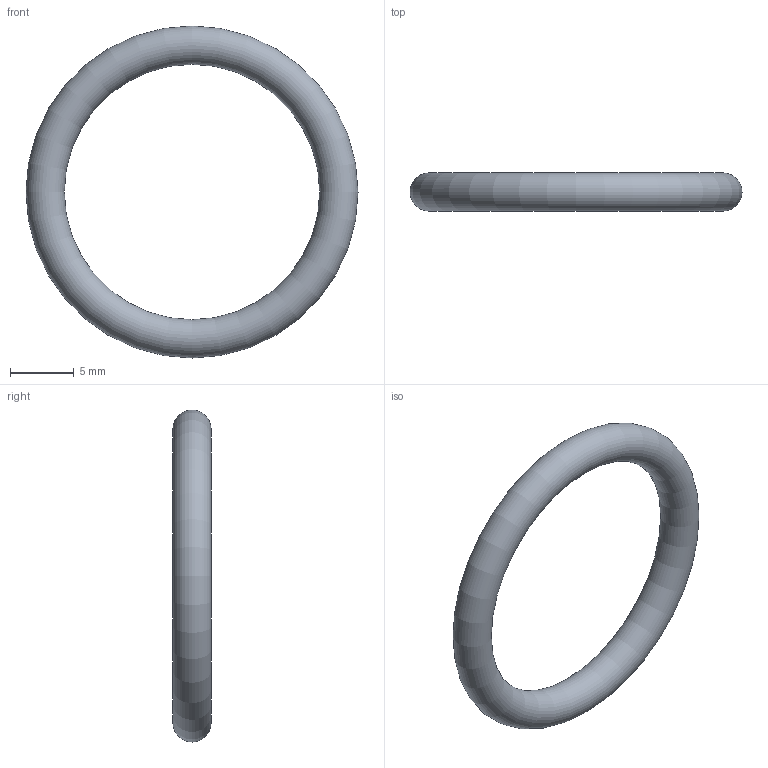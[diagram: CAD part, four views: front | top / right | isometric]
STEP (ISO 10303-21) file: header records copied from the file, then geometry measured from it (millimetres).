
FILE_DESCRIPTION( ( 'STEP AP203' ), '1' );
FILE_NAME( 'C:/Temp/Ganter_Step_05_03_2020/data/3_5/or638/O-Ring OR638-20.00-3.00-70.stp', '2020-03-12T13:44:29', ( 'License CC BY-ND 4.0' ), ( 'CADENAS' ), ' ', 'PARTsolutions', ' ' );
FILE_SCHEMA( ( 'CONFIG_CONTROL_DESIGN' ) );
Length unit declared in the file: millimetre
Products named in the file (1): _O-Ring OR638-20.00-3.00-70
Bounding box: 26 x 3 x 26 mm (x, y, z)
Volume: 510.8 mm3; surface area: 681 mm2
Topology: 1 solids, 1 shells, 1 faces, 2 edges, 1 vertices
Faces by surface type: torus 1
Entity records: 62 total; most frequent: CC_DESIGN_PERSON_AND_ORGANIZATION_ASSIGNMENT 5, PERSON_AND_ORGANIZATION_ROLE 4, DIRECTION 4, CARTESIAN_POINT 3, DATE_TIME_ROLE 2, CC_DESIGN_DATE_AND_TIME_ASSIGNMENT 2, AXIS2_PLACEMENT_3D 2, DIMENSIONAL_EXPONENTS 2
